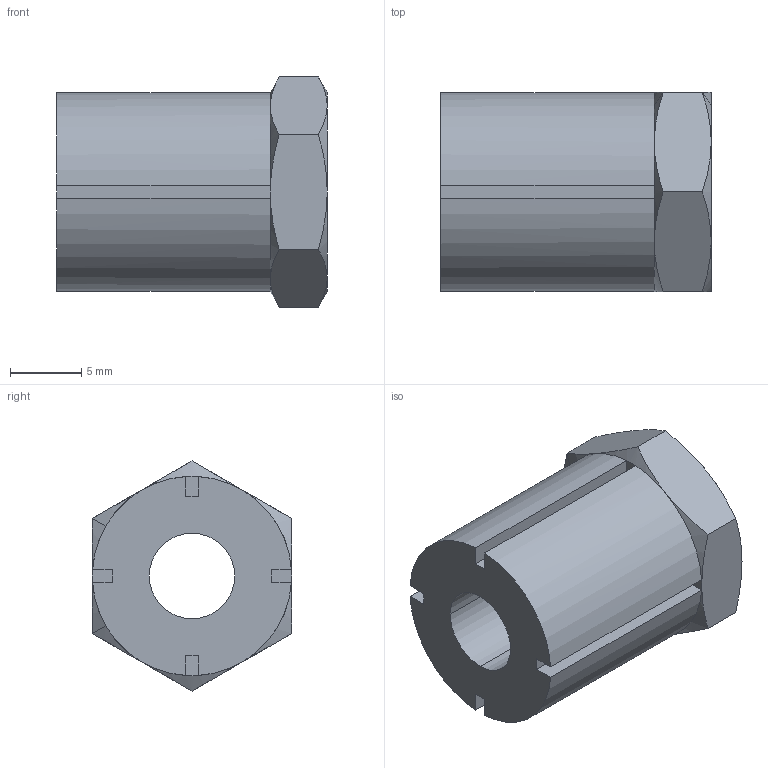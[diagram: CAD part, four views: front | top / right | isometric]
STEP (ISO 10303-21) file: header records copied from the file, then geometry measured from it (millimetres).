
FILE_DESCRIPTION((''),'2;1');
FILE_NAME('C:\WIXROYD\Positioning\3840\3840W006.stp','2003-01-09T15:38:36',('Administrator'),(''),'Autodesk Inventor (tm) 5.0','Autodesk Inventor (tm) 5.0','');
FILE_SCHEMA(('CONFIG_CONTROL_DESIGN'));
Length unit declared in the file: millimetre
Products named in the file (1): 3840W006
Bounding box: 19 x 14 x 16.17 mm (x, y, z)
Volume: 2369.5 mm3; surface area: 1645.1 mm2
Topology: 1 solids, 1 shells, 48 faces, 114 edges, 68 vertices
Faces by surface type: plane 24, cone 16, cylinder 8
Entity records: 1437 total; most frequent: CARTESIAN_POINT 279, ORIENTED_EDGE 228, DIRECTION 224, EDGE_CURVE 114, AXIS2_PLACEMENT_3D 85, VERTEX_POINT 68, VECTOR 54, LINE 54
